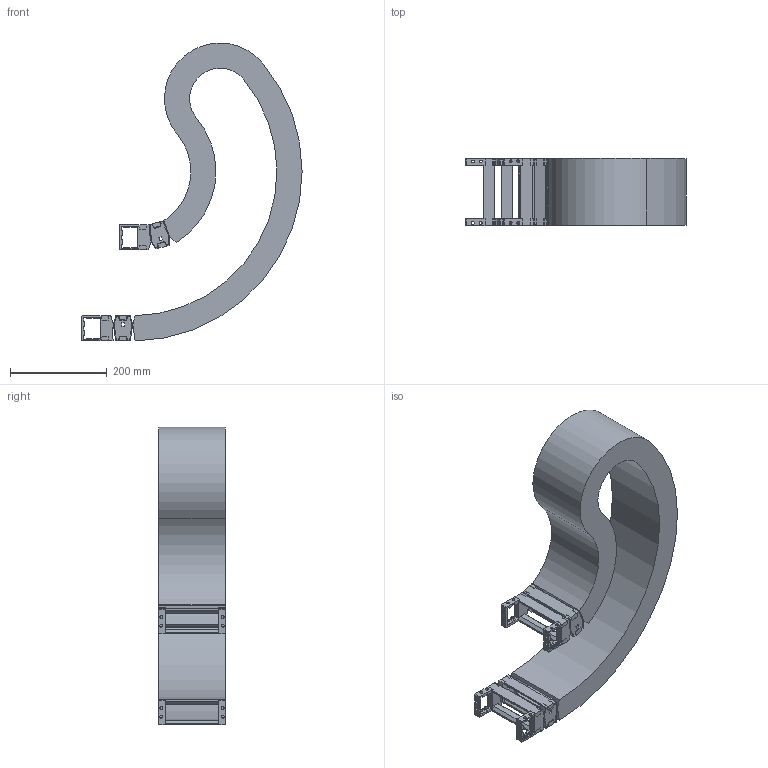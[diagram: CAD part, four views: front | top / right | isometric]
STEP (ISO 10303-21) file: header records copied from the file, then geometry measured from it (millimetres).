
FILE_DESCRIPTION( ( 'STEP AP214' ), '1' );
FILE_NAME( 'e:/temp/worker_58/temp/exporttempdir_8020_317_nUjsR/format_1/RV040CRA13814612070230340-001101890.0647.stp', '2021-07-26T15:24:59', ( 'License CC BY-ND 4.0' ), ( 'CADENAS' ), ' ', 'PARTsolutions', ' ' );
FILE_SCHEMA( ( 'AUTOMOTIVE_DESIGN { 1 0 10303 214 1 1 1 1 }' ) );
Length unit declared in the file: millimetre
Products named in the file (4): RV040CRA13814612070230340-001101890.0647; _RV040CRA13814612070230340-001101152.16-Chain; _RV040CR-SU-40-110; _RV040CR_FB-138
Assembly tree (5 placements, depth 2):
  RV040CRA13814612070230340-001101890.0647
    _RV040CRA13814612070230340-001101152.16-Chain
    _RV040CR-SU-40-110  x2
    _RV040CR_FB-138  x2
Bounding box: 455 x 138 x 615.45 mm (x, y, z)
Volume: 3855924.8 mm3; surface area: 978918.2 mm2
Topology: 5 solids, 5 shells, 692 faces, 2020 edges, 1332 vertices
Faces by surface type: plane 524, cylinder 168
Full cylindrical faces by diameter (mm): 6 x24
Entity records: 14556 total; most frequent: CARTESIAN_POINT 2056, ORIENTED_EDGE 2036, DIRECTION 1930, EDGE_CURVE 1018, LINE 830, VECTOR 830, VERTEX_POINT 676, AXIS2_PLACEMENT_3D 550
